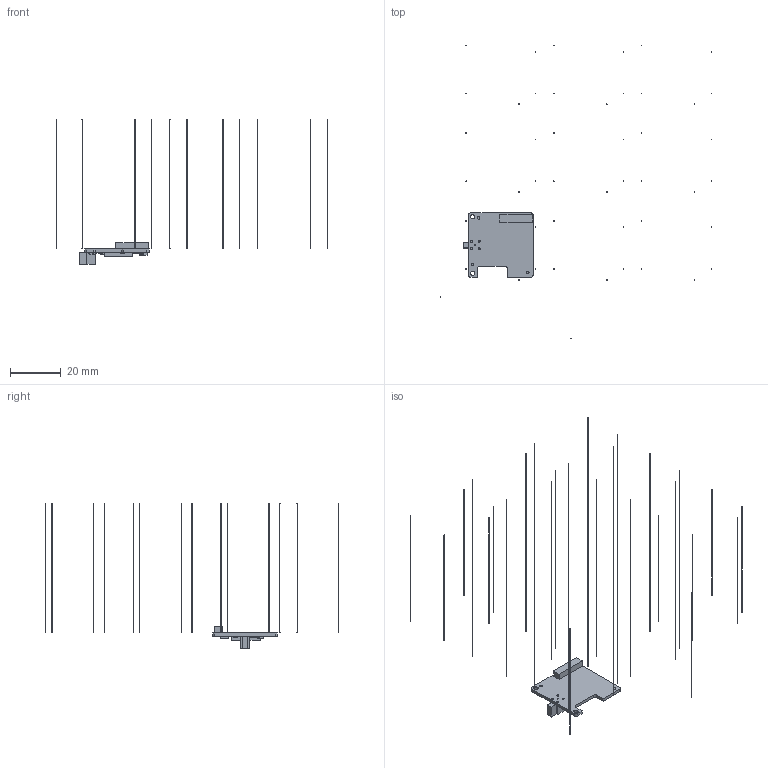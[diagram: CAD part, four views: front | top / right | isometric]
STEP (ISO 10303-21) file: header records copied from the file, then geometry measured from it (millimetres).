
FILE_DESCRIPTION(('FreeCAD Model'),'2;1');
FILE_NAME('D:/Working/MARIS/NPn_HDSDI_R2/Out/NPn_HDSDI_R2_FreeCAD.stp', '2016-08-22T14:07:17',('FreeCAD'),('FreeCAD'), 'Open CASCADE STEP processor 6.5','FreeCAD','Unknown');
FILE_SCHEMA(('AUTOMOTIVE_DESIGN_CC2 { 1 2 10303 214 -1 1 5 4 }'));
Length unit declared in the file: millimetre
Products named in the file (139): C15; C12; C6; R3; R8; NOREFDES015; C20; NOREFDES030; NOREFDES007; C32; C14; C18; C17; C23; C27; C7; C22; C2; C21; NOREFDES024; NOREFDES035; C26; NOREFDES040; NOREFDES027; R31; C3; R29; C25; R37; NOREFDES044; C34; C30; NOREFDES022; R22; FD2; R35; R25; R24; R14; R34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
Bounding box: 106.63 x 115.49 x 56.75 mm (x, y, z)
Volume: 1231 mm3; surface area: 3773.1 mm2
Topology: 139 solids, 139 shells, 749 faces, 1413 edges, 942 vertices
Faces by surface type: plane 630, cylinder 119
Full cylindrical faces by diameter (mm): 0.508 x1, 0.838 x4, 1.651 x2
Entity records: 39810 total; most frequent: CARTESIAN_POINT 6615, DIRECTION 5863, LINE 3763, VECTOR 3763, ORIENTED_EDGE 2826, PCURVE 2826, DEFINITIONAL_REPRESENTATION 2826, EDGE_CURVE 1413
